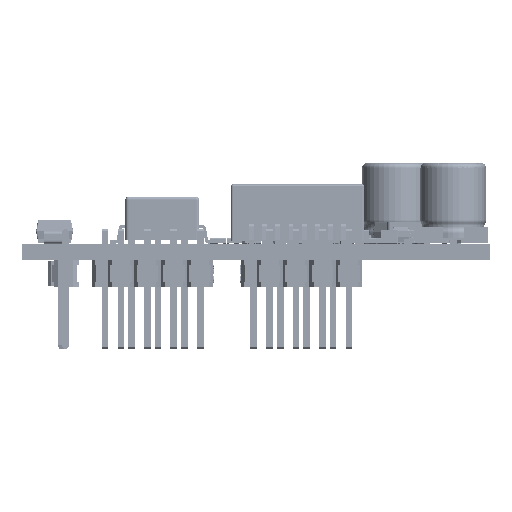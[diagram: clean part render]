
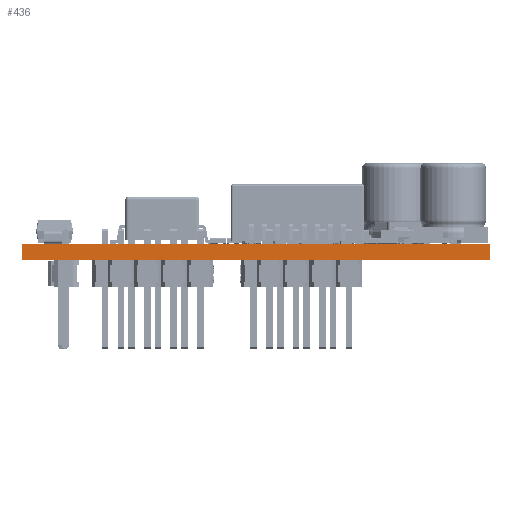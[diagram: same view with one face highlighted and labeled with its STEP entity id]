
A CAD part, left-side view. The second image highlights one B-rep face of the part: STEP entity #436.
In plain terms, the highlighted planar face has unit normal (-1, 0, 0).
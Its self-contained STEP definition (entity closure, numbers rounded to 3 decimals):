
#411 = VERTEX_POINT('',#412);
#412 = CARTESIAN_POINT('',(0.013,0.013,
    1.6));
#418 = EDGE_CURVE('',#419,#411,#421,.T.);
#419 = VERTEX_POINT('',#420);
#420 = CARTESIAN_POINT('',(0.013,0.013,0.));
#421 = LINE('',#422,#423);
#422 = CARTESIAN_POINT('',(0.013,0.013,0.));
#423 = VECTOR('',#424,1.);
#424 = DIRECTION('',(0.,0.,1.));
#436 = ADVANCED_FACE('',(#437),#462,.T.);
#437 = FACE_BOUND('',#438,.T.);
#438 = EDGE_LOOP('',(#439,#440,#448,#456));
#439 = ORIENTED_EDGE('',*,*,#418,.T.);
#440 = ORIENTED_EDGE('',*,*,#441,.T.);
#441 = EDGE_CURVE('',#411,#442,#444,.T.);
#442 = VERTEX_POINT('',#443);
#443 = CARTESIAN_POINT('',(0.013,44.987,
    1.6));
#444 = LINE('',#445,#446);
#445 = CARTESIAN_POINT('',(0.013,0.013,
    1.6));
#446 = VECTOR('',#447,1.);
#447 = DIRECTION('',(0.,1.,0.));
#448 = ORIENTED_EDGE('',*,*,#449,.F.);
#449 = EDGE_CURVE('',#450,#442,#452,.T.);
#450 = VERTEX_POINT('',#451);
#451 = CARTESIAN_POINT('',(0.013,44.987,0.));
#452 = LINE('',#453,#454);
#453 = CARTESIAN_POINT('',(0.013,44.987,0.));
#454 = VECTOR('',#455,1.);
#455 = DIRECTION('',(0.,0.,1.));
#456 = ORIENTED_EDGE('',*,*,#457,.F.);
#457 = EDGE_CURVE('',#419,#450,#458,.T.);
#458 = LINE('',#459,#460);
#459 = CARTESIAN_POINT('',(0.013,0.013,0.));
#460 = VECTOR('',#461,1.);
#461 = DIRECTION('',(0.,1.,0.));
#462 = PLANE('',#463);
#463 = AXIS2_PLACEMENT_3D('',#464,#465,#466);
#464 = CARTESIAN_POINT('',(0.013,0.013,0.));
#465 = DIRECTION('',(-1.,0.,0.));
#466 = DIRECTION('',(0.,1.,0.));
